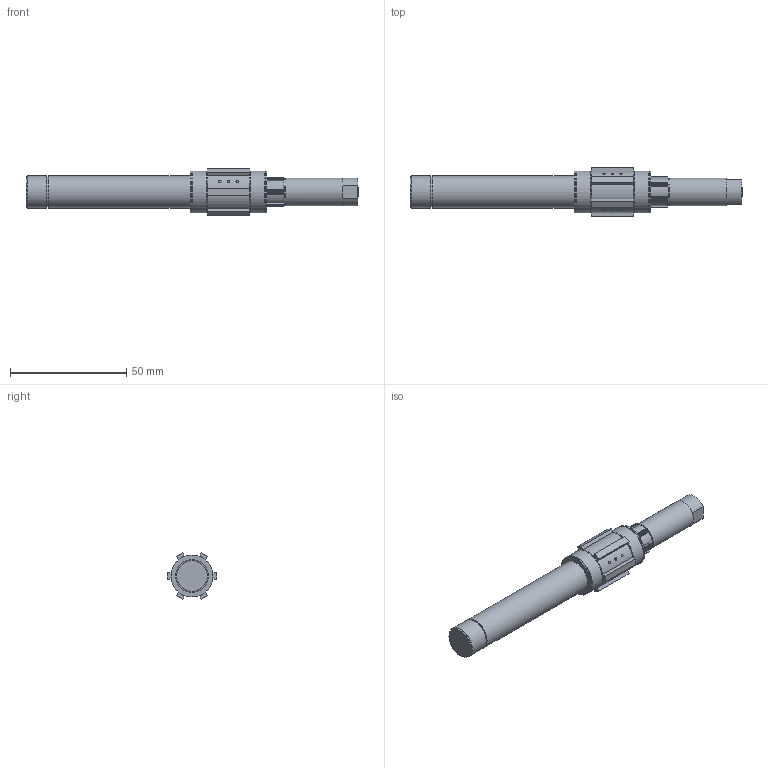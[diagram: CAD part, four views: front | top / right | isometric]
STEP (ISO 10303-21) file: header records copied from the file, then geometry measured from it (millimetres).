
FILE_DESCRIPTION(('Open CASCADE Model'),'2;1');
FILE_NAME('U_R12_local_12mm_shaft','2026-09-28T18:06:48',('Author'),( 'Open CASCADE'),'Open CASCADE STEP processor 7.9','build123d', 'Unknown');
FILE_SCHEMA(('AUTOMOTIVE_DESIGN { 1 0 10303 214 1 1 1 1 }'));
Length unit declared in the file: millimetre
Products named in the file (1): U_R12_local_12mm_shaft
Bounding box: 142.6 x 21.2 x 19.86 mm (x, y, z)
Volume: 24045.5 mm3; surface area: 7885.1 mm2
Topology: 1 solids, 4 shells, 230 faces, 616 edges, 413 vertices
Faces by surface type: plane 191, cylinder 30, sphere 9
Full cylindrical faces by diameter (mm): 4.2 x2, 11.6 x1, 12 x1, 13.2 x2, 14 x2, 17.7 x4, 18 x4
Entity records: 18509 total; most frequent: CARTESIAN_POINT 6082, DIRECTION 2298, LINE 1629, VECTOR 1629, ORIENTED_EDGE 1215, PCURVE 1215, DEFINITIONAL_REPRESENTATION 1215, EDGE_CURVE 613
